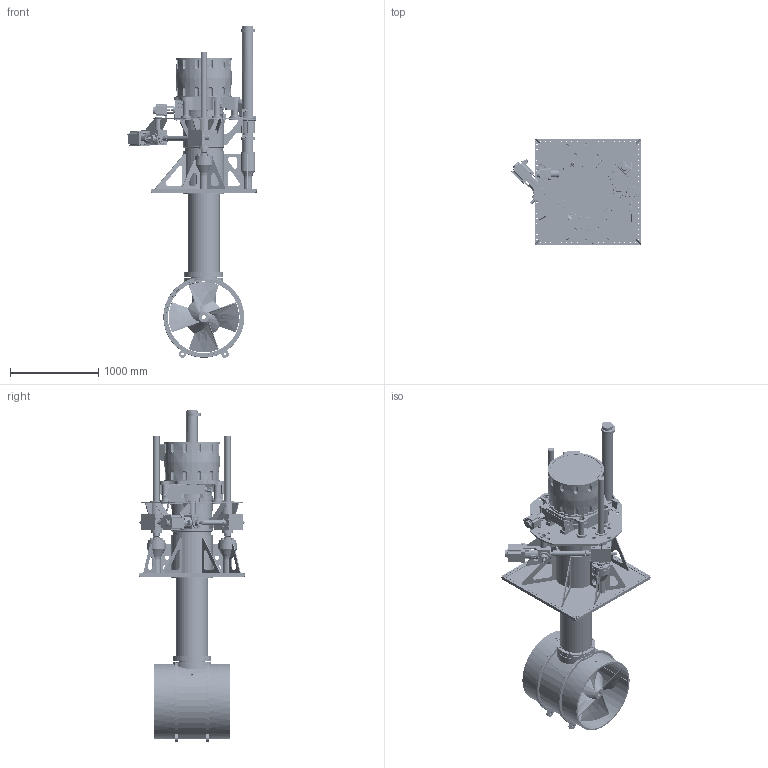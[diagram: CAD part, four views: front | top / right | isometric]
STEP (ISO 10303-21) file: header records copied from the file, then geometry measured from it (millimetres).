
FILE_DESCRIPTION(/* description */ (''),/* implementation_level */ '2;1');
FILE_NAME(/* name */ 'Q:\THRUSTERS\THRUSTER SALES & SUPPORT DOCS\THRUSTER Sales\E-V-R\E-0800-V-R\E-0800-V-R-DEPLOYED.stp',/* time_stamp */ '2021-01-29T08:42:39+00:00',/* author */ ('Barney.Webborn'),/* organization */ (''),/* preprocessor_version */ 'ST-DEVELOPER v17.2',/* originating_system */ 'Autodesk Inventor 2019',/* authorisation */ '');
FILE_SCHEMA (('AUTOMOTIVE_DESIGN { 1 0 10303 214 3 1 1 }'));
Products named in the file (1): E-0800-V-R_Shrinkwrap_1
Bounding box: 1467.37 x 1200 x 3761.55 mm (x, y, z)
Volume: 439767793.2 mm3; surface area: 30318461.7 mm2
Topology: 7 solids, 7 shells, 5008 faces, 14043 edges, 9260 vertices
Faces by surface type: plane 2074, cylinder 1635, cone 657, torus 516, bspline 71, sphere 55
Full cylindrical faces by diameter (mm): 3 x6, 4.95 x8, 5.5 x12, 7 x20, 7.2 x2, 8 x6, 8.5 x16, 9 x1, 9.525 x1, 12.4 x24, 13 x98, 13.494 x12, 13.5 x4, 14 x25, 15 x4, 15.25 x5, 15.3 x2, 16 x4, 17 x10, 17.5 x2, 18 x1, 18.376 x2, 20 x4, 21 x2, 24 x1, 24.5 x2, 25 x12, 26.5 x16, 28.4 x1, 29 x1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
Entity records: 181843 total; most frequent: CARTESIAN_POINT 46328, ORIENTED_EDGE 27920, DIRECTION 27041, EDGE_CURVE 13960, AXIS2_PLACEMENT_3D 10533, VERTEX_POINT 9260, EDGE_LOOP 6010, LINE 5975
